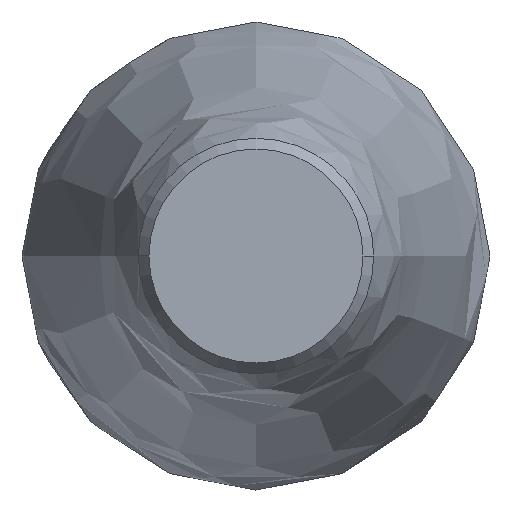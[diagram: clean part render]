
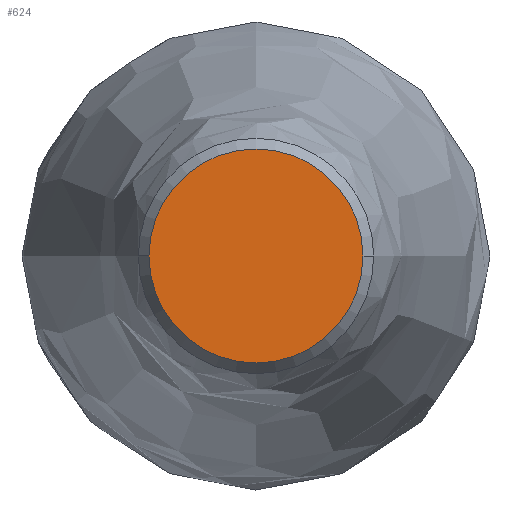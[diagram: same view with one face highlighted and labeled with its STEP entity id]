
A CAD part, left-side view. The second image highlights one B-rep face of the part: STEP entity #624.
In plain terms, the highlighted planar face has unit normal (-1, 0, 0).
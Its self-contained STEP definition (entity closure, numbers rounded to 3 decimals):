
#51=CARTESIAN_POINT('',(120.0,35.0,0.0));
#52=VERTEX_POINT('',#51);
#68=CARTESIAN_POINT('',(120.0,-35.0,0.));
#69=VERTEX_POINT('',#68);
#76=CARTESIAN_POINT('',(120.0,0.,0.0));
#77=DIRECTION('',(-1.0,0.0,0.0));
#78=DIRECTION('',(0.0,1.0,0.0));
#79=AXIS2_PLACEMENT_3D('',#76,#77,#78);
#80=CIRCLE('',#79,35.0);
#81=EDGE_CURVE('',#52,#69,#80,.T.);
#603=CARTESIAN_POINT('',(120.0,0.,0.0));
#604=DIRECTION('',(-1.0,0.0,0.0));
#605=DIRECTION('',(0.0,1.0,0.0));
#606=AXIS2_PLACEMENT_3D('',#603,#604,#605);
#607=CIRCLE('',#606,35.0);
#608=EDGE_CURVE('',#69,#52,#607,.T.);
#615=CARTESIAN_POINT('',(120.0,17.5,0.0));
#616=DIRECTION('',(-1.0,0.0,0.0));
#617=DIRECTION('',(0.0,0.0,1.0));
#618=AXIS2_PLACEMENT_3D('',#615,#616,#617);
#619=PLANE('',#618);
#620=ORIENTED_EDGE('',*,*,#81,.T.);
#621=ORIENTED_EDGE('',*,*,#608,.T.);
#622=EDGE_LOOP('',(#620,#621));
#623=FACE_OUTER_BOUND('',#622,.T.);
#624=ADVANCED_FACE('',(#623),#619,.T.);
